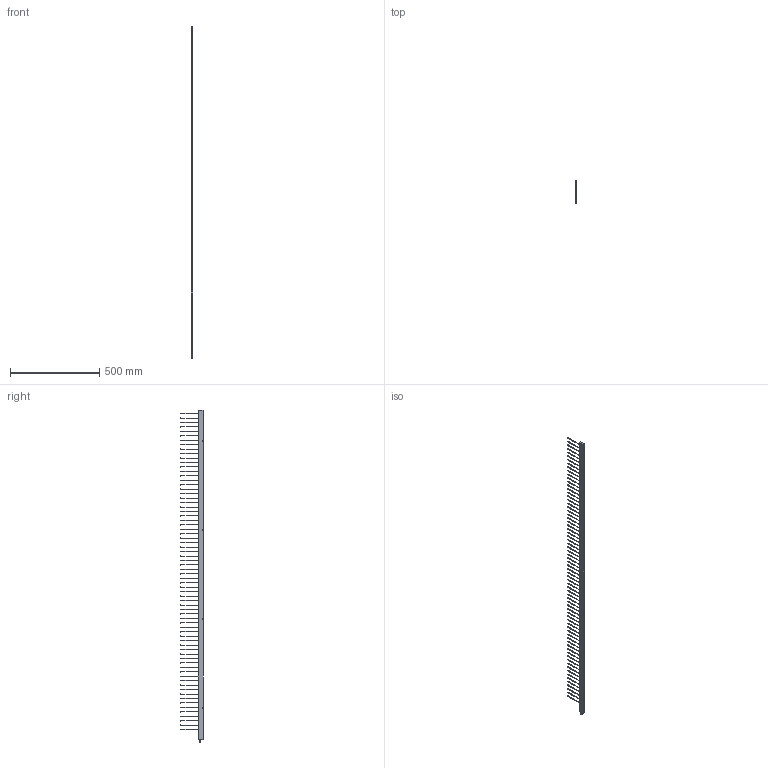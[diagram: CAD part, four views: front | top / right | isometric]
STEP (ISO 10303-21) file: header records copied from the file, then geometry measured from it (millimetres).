
FILE_DESCRIPTION (( 'STEP AP203' ), '1' );
FILE_NAME ('CSL505-RxTx25-1775-M8.STEP', '2016-02-15T08:54:56', ( '' ), ( '' ), 'SwSTEP 2.0', 'SolidWorks 2015', '' );
FILE_SCHEMA (( 'CONFIG_CONTROL_DESIGN' ));
Length unit declared in the file: millimetre
Products named in the file (2): CSL505-RxTx25-1775-M8
Bounding box: 10 x 125.2 x 1864 mm (x, y, z)
Volume: 540691.6 mm3; surface area: 208336.6 mm2
Topology: 1 solids, 1 shells, 366 faces, 832 edges, 542 vertices
Faces by surface type: cylinder 188, plane 166, cone 12
Entity records: 10549 total; most frequent: DIRECTION 1954, CARTESIAN_POINT 1742, ORIENTED_EDGE 1664, EDGE_CURVE 832, AXIS2_PLACEMENT_3D 754, VERTEX_POINT 542, EDGE_LOOP 448, LINE 446
